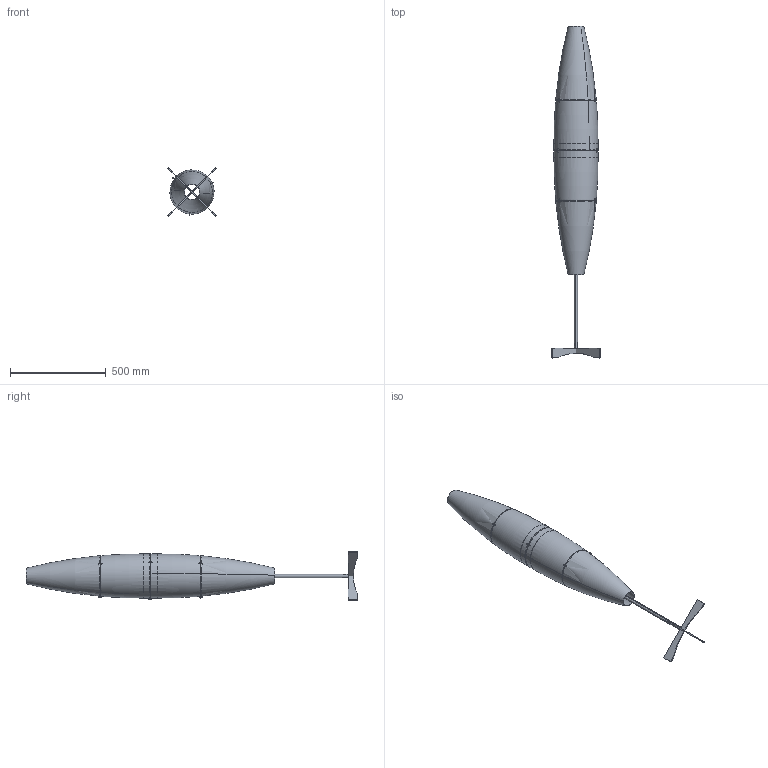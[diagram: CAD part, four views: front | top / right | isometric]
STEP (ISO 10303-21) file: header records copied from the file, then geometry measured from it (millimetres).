
FILE_DESCRIPTION (( 'STEP AP214' ), '1' );
FILE_NAME ('040_STD_F_PL_3D.STEP', '2021-05-06T07:11:11', ( '' ), ( '' ), 'SwSTEP 2.0', 'SolidWorks 2021', '' );
FILE_SCHEMA (( 'AUTOMOTIVE_DESIGN' ));
Length unit declared in the file: millimetre
Products named in the file (1): 040_STD_F_PL_3D
Bounding box: 251.02 x 1729.8 x 251.02 mm (x, y, z)
Volume: 1294305.1 mm3; surface area: 1639826.4 mm2
Topology: 20 solids, 20 shells, 282 faces, 630 edges, 388 vertices
Faces by surface type: cylinder 111, torus 88, plane 81, bspline 2
Entity records: 13035 total; most frequent: CARTESIAN_POINT 3257, DIRECTION 1420, ORIENTED_EDGE 1260, EDGE_CURVE 630, AXIS2_PLACEMENT_3D 593, VERTEX_POINT 388, EDGE_LOOP 336, CIRCLE 312
